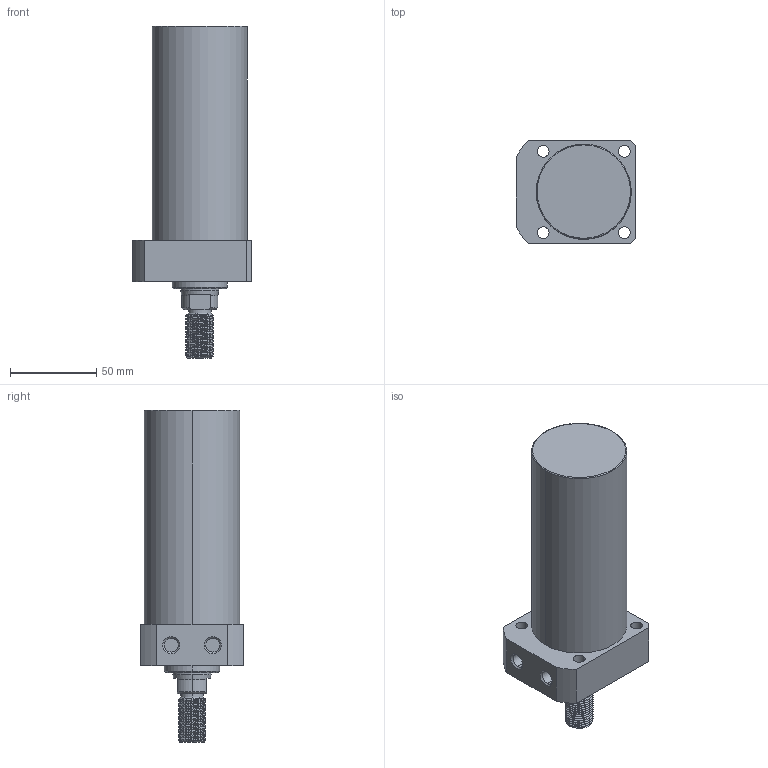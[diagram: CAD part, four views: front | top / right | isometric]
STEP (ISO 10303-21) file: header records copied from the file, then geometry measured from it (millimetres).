
FILE_DESCRIPTION (( 'STEP AP214' ), '1' );
FILE_NAME ('CLLR-055CT-095.STEP', '2020-01-10T00:50:12', ( 'Windows' ), ( 'Microsoft' ), 'SwSTEP 2.0', 'SolidWorks 2015', '' );
FILE_SCHEMA (( 'AUTOMOTIVE_DESIGN' ));
Length unit declared in the file: millimetre
Products named in the file (1): CLLR-055CT-095
Bounding box: 69 x 60 x 192 mm (x, y, z)
Volume: 399335.2 mm3; surface area: 41234.6 mm2
Topology: 1 solids, 1 shells, 101 faces, 259 edges, 168 vertices
Faces by surface type: cylinder 62, plane 20, cone 15, torus 2, bspline 2
Entity records: 5044 total; most frequent: CARTESIAN_POINT 2654, ORIENTED_EDGE 518, DIRECTION 458, EDGE_CURVE 259, AXIS2_PLACEMENT_3D 180, VERTEX_POINT 168, EDGE_LOOP 117, ADVANCED_FACE 101
